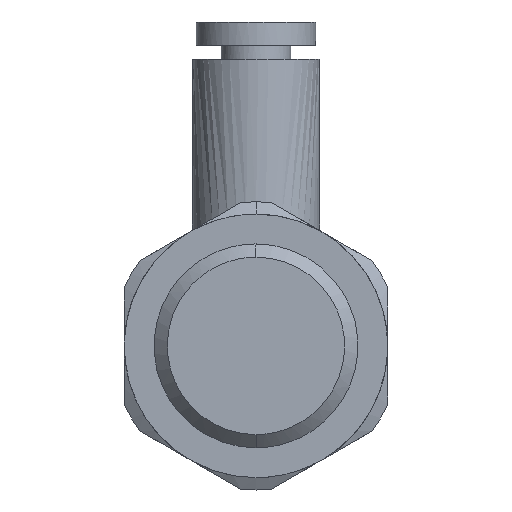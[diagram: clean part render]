
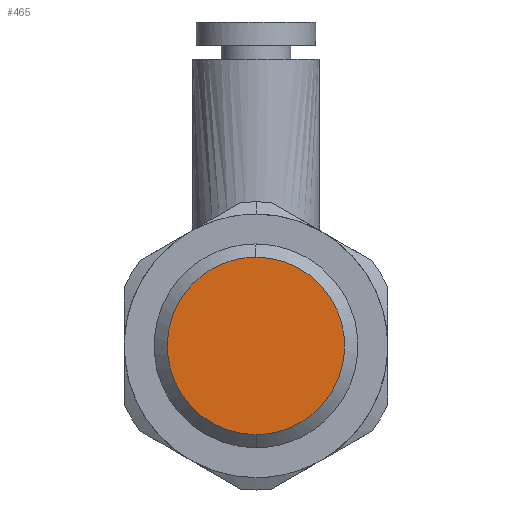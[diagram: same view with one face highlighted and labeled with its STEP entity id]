
A CAD part, front view. The second image highlights one B-rep face of the part: STEP entity #465.
In plain terms, the highlighted planar face has unit normal (0, -1, 0).
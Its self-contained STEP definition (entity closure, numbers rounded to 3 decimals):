
#100 = VERTEX_POINT ( 'NONE', #2113 ) ;
#390 = EDGE_LOOP ( 'NONE', ( #2528, #1046 ) ) ;
#414 =( BOUNDED_CURVE ( )  B_SPLINE_CURVE ( 3, ( #2707, #894, #2739, #1374 ),
 .UNSPECIFIED., .F., .T. ) 
 B_SPLINE_CURVE_WITH_KNOTS ( ( 4, 4 ),
 ( 0., 0.5 ),
 .UNSPECIFIED. ) 
 CURVE ( )  GEOMETRIC_REPRESENTATION_ITEM ( )  RATIONAL_B_SPLINE_CURVE ( ( 1., 0.333, 0.333, 1. ) ) 
 REPRESENTATION_ITEM ( '' )  );
#452 = CARTESIAN_POINT ( 'NONE',  ( 0., -6.5, -5.723 ) ) ;
#465 = ADVANCED_FACE ( 'NONE', ( #2349 ), #2086, .T. ) ;
#683 = DIRECTION ( 'NONE',  ( 0., -1., 0. ) ) ;
#768 = EDGE_CURVE ( 'NONE', #100, #1433, #414, .T. ) ;
#891 = CARTESIAN_POINT ( 'NONE',  ( -11.445, -6.5, -5.723 ) ) ;
#894 = CARTESIAN_POINT ( 'NONE',  ( 11.445, -6.5, 5.723 ) ) ;
#1046 = ORIENTED_EDGE ( 'NONE', *, *, #1614, .F. ) ;
#1350 = AXIS2_PLACEMENT_3D ( 'NONE', #2964, #683, #2523 ) ;
#1374 = CARTESIAN_POINT ( 'NONE',  ( 0., -6.5, -5.723 ) ) ;
#1433 = VERTEX_POINT ( 'NONE', #1904 ) ;
#1614 = EDGE_CURVE ( 'NONE', #1433, #100, #2866, .T. ) ;
#1904 = CARTESIAN_POINT ( 'NONE',  ( 0., -6.5, -5.723 ) ) ;
#2056 = CARTESIAN_POINT ( 'NONE',  ( -11.445, -6.5, 5.723 ) ) ;
#2086 = PLANE ( 'NONE',  #1350 ) ;
#2113 = CARTESIAN_POINT ( 'NONE',  ( 0., -6.5, 5.723 ) ) ;
#2349 = FACE_OUTER_BOUND ( 'NONE', #390, .T. ) ;
#2523 = DIRECTION ( 'NONE',  ( 0., 0., -1. ) ) ;
#2528 = ORIENTED_EDGE ( 'NONE', *, *, #768, .F. ) ;
#2707 = CARTESIAN_POINT ( 'NONE',  ( 0., -6.5, 5.723 ) ) ;
#2739 = CARTESIAN_POINT ( 'NONE',  ( 11.445, -6.5, -5.722 ) ) ;
#2751 = CARTESIAN_POINT ( 'NONE',  ( 0., -6.5, 5.723 ) ) ;
#2866 =( BOUNDED_CURVE ( )  B_SPLINE_CURVE ( 3, ( #452, #891, #2056, #2751 ),
 .UNSPECIFIED., .F., .T. ) 
 B_SPLINE_CURVE_WITH_KNOTS ( ( 4, 4 ),
 ( 0.5, 1. ),
 .UNSPECIFIED. ) 
 CURVE ( )  GEOMETRIC_REPRESENTATION_ITEM ( )  RATIONAL_B_SPLINE_CURVE ( ( 1., 0.333, 0.333, 1. ) ) 
 REPRESENTATION_ITEM ( '' )  );
#2964 = CARTESIAN_POINT ( 'NONE',  ( -5.791, -6.5, 5.791 ) ) ;
